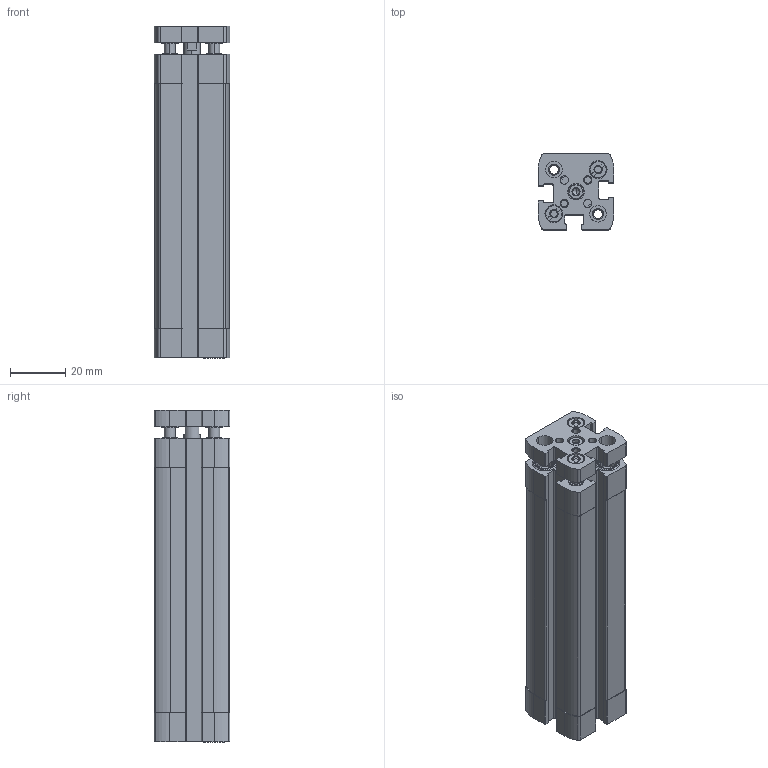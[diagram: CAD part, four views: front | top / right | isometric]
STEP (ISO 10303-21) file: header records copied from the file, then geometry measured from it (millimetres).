
FILE_DESCRIPTION (( 'STEP AP203' ), '1' );
FILE_NAME ('CCNG12-75.STEP', '2017-04-13T14:22:16', ( '' ), ( '' ), 'SwSTEP 2.0', 'SolidWorks 2016', '' );
FILE_SCHEMA (( 'CONFIG_CONTROL_DESIGN' ));
Length unit declared in the file: millimetre
Products named in the file (3): CCNG-12-75---(Z); CCNG-12-75---(KS); CCNG12-75
Assembly tree (2 placements, depth 2):
  CCNG12-75
    CCNG-12-75---(Z)
    CCNG-12-75---(KS)
Bounding box: 27.5 x 27.5 x 120.2 mm (x, y, z)
Volume: 59883.6 mm3; surface area: 35281 mm2
Topology: 2 solids, 6 shells, 538 faces, 1396 edges, 911 vertices
Faces by surface type: plane 252, cylinder 212, cone 70, bspline 4
Entity records: 17063 total; most frequent: CARTESIAN_POINT 3324, DIRECTION 2860, ORIENTED_EDGE 2788, EDGE_CURVE 1394, AXIS2_PLACEMENT_3D 1059, VERTEX_POINT 911, VECTOR 742, LINE 742
